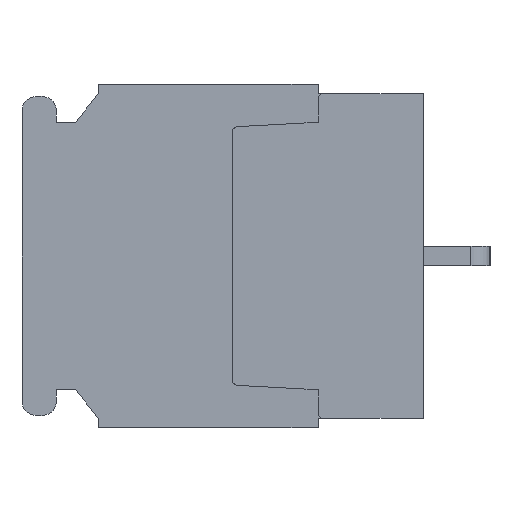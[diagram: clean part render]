
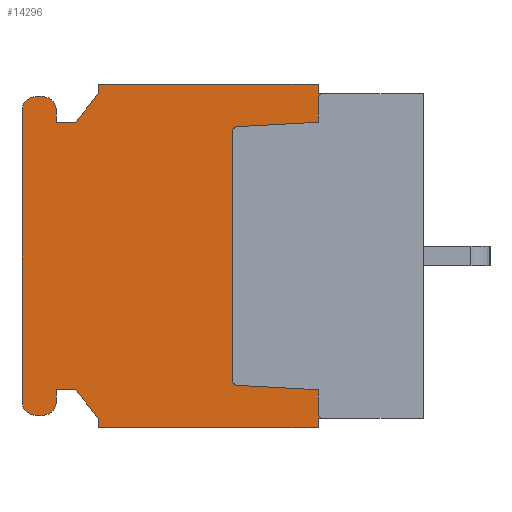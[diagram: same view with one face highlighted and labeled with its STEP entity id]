
A CAD part, left-side view. The second image highlights one B-rep face of the part: STEP entity #14296.
In plain terms, the highlighted planar face has unit normal (-1, 0, 0).
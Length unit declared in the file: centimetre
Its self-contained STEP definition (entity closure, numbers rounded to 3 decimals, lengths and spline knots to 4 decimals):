
#1227=VECTOR('',#16149,1.);
#1263=VECTOR('',#16187,1.);
#1736=VECTOR('',#17406,1.);
#1738=VECTOR('',#17409,1.);
#1740=VECTOR('',#17412,1.);
#1741=VECTOR('',#17414,1.);
#1743=VECTOR('',#17417,1.);
#1745=VECTOR('',#17420,1.);
#1747=VECTOR('',#17423,1.);
#1749=VECTOR('',#17426,1.);
#1751=VECTOR('',#17429,1.);
#1754=VECTOR('',#17437,1.);
#1757=VECTOR('',#17445,1.);
#1760=VECTOR('',#17453,1.);
#1763=VECTOR('',#17461,1.);
#1765=VECTOR('',#17464,1.);
#1767=VECTOR('',#17467,1.);
#1776=VECTOR('',#17492,1.);
#1777=VECTOR('',#17493,1.);
#1778=VECTOR('',#17496,1.);
#1779=VECTOR('',#17499,1.);
#1780=VECTOR('',#17500,1.);
#2767=LINE('',#20259,#1227);
#2803=LINE('',#20330,#1263);
#3276=LINE('',#21884,#1736);
#3278=LINE('',#21888,#1738);
#3280=LINE('',#21892,#1740);
#3281=LINE('',#21894,#1741);
#3283=LINE('',#21898,#1743);
#3285=LINE('',#21902,#1745);
#3287=LINE('',#21906,#1747);
#3289=LINE('',#21910,#1749);
#3291=LINE('',#21914,#1751);
#3294=LINE('',#21922,#1754);
#3297=LINE('',#21930,#1757);
#3300=LINE('',#21938,#1760);
#3303=LINE('',#21946,#1763);
#3305=LINE('',#21950,#1765);
#3307=LINE('',#21954,#1767);
#3316=LINE('',#21975,#1776);
#3317=LINE('',#21977,#1777);
#3318=LINE('',#21981,#1778);
#3319=LINE('',#21985,#1779);
#3320=LINE('',#21987,#1780);
#4295=VERTEX_POINT('',#20258);
#4296=VERTEX_POINT('',#20260);
#4328=VERTEX_POINT('',#20329);
#4329=VERTEX_POINT('',#20331);
#4775=VERTEX_POINT('',#21883);
#4776=VERTEX_POINT('',#21885);
#4777=VERTEX_POINT('',#21889);
#4778=VERTEX_POINT('',#21895);
#4779=VERTEX_POINT('',#21899);
#4780=VERTEX_POINT('',#21903);
#4781=VERTEX_POINT('',#21907);
#4782=VERTEX_POINT('',#21911);
#4783=VERTEX_POINT('',#21915);
#4784=VERTEX_POINT('',#21919);
#4785=VERTEX_POINT('',#21923);
#4786=VERTEX_POINT('',#21927);
#4787=VERTEX_POINT('',#21931);
#4788=VERTEX_POINT('',#21935);
#4789=VERTEX_POINT('',#21939);
#4790=VERTEX_POINT('',#21943);
#4791=VERTEX_POINT('',#21947);
#4792=VERTEX_POINT('',#21951);
#4793=VERTEX_POINT('',#21974);
#4794=VERTEX_POINT('',#21976);
#4795=VERTEX_POINT('',#21978);
#4796=VERTEX_POINT('',#21980);
#4797=VERTEX_POINT('',#21982);
#4798=VERTEX_POINT('',#21984);
#4799=VERTEX_POINT('',#21986);
#4800=VERTEX_POINT('',#21988);
#5399=CIRCLE('',#24344,0.075);
#5400=CIRCLE('',#24347,0.075);
#5401=CIRCLE('',#24350,0.075);
#5402=CIRCLE('',#24353,0.075);
#5403=CIRCLE('',#24367,0.03);
#5404=CIRCLE('',#24368,0.03);
#5405=CIRCLE('',#24369,0.03);
#5406=CIRCLE('',#24370,0.03);
#6250=EDGE_CURVE('',#4296,#4295,#2767,.T.);
#6286=EDGE_CURVE('',#4329,#4328,#2803,.T.);
#6999=EDGE_CURVE('',#4776,#4775,#3276,.T.);
#7001=EDGE_CURVE('',#4777,#4776,#3278,.T.);
#7003=EDGE_CURVE('',#4295,#4777,#3280,.T.);
#7004=EDGE_CURVE('',#4778,#4329,#3281,.T.);
#7006=EDGE_CURVE('',#4779,#4778,#3283,.T.);
#7008=EDGE_CURVE('',#4780,#4779,#3285,.T.);
#7010=EDGE_CURVE('',#4781,#4780,#3287,.T.);
#7012=EDGE_CURVE('',#4782,#4781,#3289,.T.);
#7014=EDGE_CURVE('',#4783,#4782,#3291,.T.);
#7016=EDGE_CURVE('',#4783,#4784,#5399,.T.);
#7018=EDGE_CURVE('',#4785,#4784,#3294,.T.);
#7020=EDGE_CURVE('',#4785,#4786,#5400,.T.);
#7022=EDGE_CURVE('',#4787,#4786,#3297,.T.);
#7024=EDGE_CURVE('',#4787,#4788,#5401,.T.);
#7026=EDGE_CURVE('',#4789,#4788,#3300,.T.);
#7028=EDGE_CURVE('',#4789,#4790,#5402,.T.);
#7030=EDGE_CURVE('',#4791,#4790,#3303,.T.);
#7032=EDGE_CURVE('',#4792,#4791,#3305,.T.);
#7034=EDGE_CURVE('',#4775,#4792,#3307,.T.);
#7043=EDGE_CURVE('',#4328,#4793,#5403,.T.);
#7044=EDGE_CURVE('',#4793,#4794,#3316,.T.);
#7045=EDGE_CURVE('',#4794,#4795,#3317,.T.);
#7046=EDGE_CURVE('',#4795,#4796,#5404,.T.);
#7047=EDGE_CURVE('',#4796,#4797,#3318,.T.);
#7048=EDGE_CURVE('',#4797,#4798,#5405,.T.);
#7049=EDGE_CURVE('',#4798,#4799,#3319,.T.);
#7050=EDGE_CURVE('',#4799,#4800,#3320,.T.);
#7051=EDGE_CURVE('',#4800,#4296,#5406,.T.);
#10775=ORIENTED_EDGE('',*,*,#7043,.T.);
#10776=ORIENTED_EDGE('',*,*,#7044,.T.);
#10777=ORIENTED_EDGE('',*,*,#7045,.T.);
#10778=ORIENTED_EDGE('',*,*,#7046,.T.);
#10779=ORIENTED_EDGE('',*,*,#7047,.T.);
#10780=ORIENTED_EDGE('',*,*,#7048,.T.);
#10781=ORIENTED_EDGE('',*,*,#7049,.T.);
#10782=ORIENTED_EDGE('',*,*,#7050,.T.);
#10783=ORIENTED_EDGE('',*,*,#7051,.T.);
#10784=ORIENTED_EDGE('',*,*,#6250,.T.);
#10785=ORIENTED_EDGE('',*,*,#7003,.T.);
#10786=ORIENTED_EDGE('',*,*,#7001,.T.);
#10787=ORIENTED_EDGE('',*,*,#6999,.T.);
#10788=ORIENTED_EDGE('',*,*,#7034,.T.);
#10789=ORIENTED_EDGE('',*,*,#7032,.T.);
#10790=ORIENTED_EDGE('',*,*,#7030,.T.);
#10791=ORIENTED_EDGE('',*,*,#7028,.F.);
#10792=ORIENTED_EDGE('',*,*,#7026,.T.);
#10793=ORIENTED_EDGE('',*,*,#7024,.F.);
#10794=ORIENTED_EDGE('',*,*,#7022,.T.);
#10795=ORIENTED_EDGE('',*,*,#7020,.F.);
#10796=ORIENTED_EDGE('',*,*,#7018,.T.);
#10797=ORIENTED_EDGE('',*,*,#7016,.F.);
#10798=ORIENTED_EDGE('',*,*,#7014,.T.);
#10799=ORIENTED_EDGE('',*,*,#7012,.T.);
#10800=ORIENTED_EDGE('',*,*,#7010,.T.);
#10801=ORIENTED_EDGE('',*,*,#7008,.T.);
#10802=ORIENTED_EDGE('',*,*,#7006,.T.);
#10803=ORIENTED_EDGE('',*,*,#7004,.T.);
#10804=ORIENTED_EDGE('',*,*,#6286,.T.);
#12536=EDGE_LOOP('',(#10775,#10776,#10777,#10778,#10779,#10780,#10781,#10782,
#10783,#10784,#10785,#10786,#10787,#10788,#10789,#10790,#10791,#10792,#10793,
#10794,#10795,#10796,#10797,#10798,#10799,#10800,#10801,#10802,#10803,#10804));
#13446=FACE_BOUND('',#12536,.T.);
#14296=ADVANCED_FACE('',(#13446),#14935,.F.);
#14935=PLANE('',#24366);
#16149=DIRECTION('',(0.,1.,0.));
#16187=DIRECTION('',(0.,-1.,0.));
#17406=DIRECTION('',(0.,0.,-1.));
#17409=DIRECTION('',(0.,1.,0.));
#17412=DIRECTION('',(0.,0.,1.));
#17414=DIRECTION('',(0.,0.,1.));
#17417=DIRECTION('',(0.,-1.,0.));
#17420=DIRECTION('',(0.,0.,-1.));
#17423=DIRECTION('',(0.,-0.625,-0.781));
#17426=DIRECTION('',(0.,-1.,0.));
#17429=DIRECTION('',(0.,0.,1.));
#17433=DIRECTION('',(1.,0.,0.));
#17434=DIRECTION('',(0.,0.,-0.075));
#17437=DIRECTION('',(0.,-1.,0.));
#17441=DIRECTION('',(1.,0.,0.));
#17442=DIRECTION('',(0.,0.,-0.075));
#17445=DIRECTION('',(0.,0.,-1.));
#17449=DIRECTION('',(1.,0.,0.));
#17450=DIRECTION('',(0.,0.,-0.075));
#17453=DIRECTION('',(0.,1.,0.));
#17457=DIRECTION('',(1.,0.,0.));
#17458=DIRECTION('',(0.,0.,-0.075));
#17461=DIRECTION('',(0.,0.,1.));
#17464=DIRECTION('',(0.,1.,0.));
#17467=DIRECTION('',(0.,0.625,-0.781));
#17489=DIRECTION('',(1.,0.,0.));
#17490=DIRECTION('',(1.,0.,0.));
#17491=DIRECTION('',(0.,0.,-0.03));
#17492=DIRECTION('',(0.,0.,1.));
#17493=DIRECTION('',(0.,0.999,0.054));
#17494=DIRECTION('',(1.,0.,0.));
#17495=DIRECTION('',(0.,0.,-0.03));
#17496=DIRECTION('',(0.,0.,1.));
#17497=DIRECTION('',(1.,0.,0.));
#17498=DIRECTION('',(0.,0.,-0.03));
#17499=DIRECTION('',(0.,-0.999,0.054));
#17500=DIRECTION('',(0.,0.,1.));
#17501=DIRECTION('',(1.,0.,0.));
#17502=DIRECTION('',(0.,0.,-0.03));
#20258=CARTESIAN_POINT('',(-1.3,0.55,0.85));
#20259=CARTESIAN_POINT('',(-1.3,0.,0.85));
#20260=CARTESIAN_POINT('',(-1.3,0.52,0.85));
#20329=CARTESIAN_POINT('',(-1.3,0.52,-0.85));
#20330=CARTESIAN_POINT('',(-1.3,0.55,-0.85));
#20331=CARTESIAN_POINT('',(-1.3,0.55,-0.85));
#21883=CARTESIAN_POINT('',(-1.3,1.7,0.85));
#21884=CARTESIAN_POINT('',(-1.3,1.7,0.9));
#21885=CARTESIAN_POINT('',(-1.3,1.7,0.9));
#21888=CARTESIAN_POINT('',(-1.3,0.55,0.9));
#21889=CARTESIAN_POINT('',(-1.3,0.55,0.9));
#21892=CARTESIAN_POINT('',(-1.3,0.55,0.85));
#21894=CARTESIAN_POINT('',(-1.3,0.55,-0.9));
#21895=CARTESIAN_POINT('',(-1.3,0.55,-0.9));
#21898=CARTESIAN_POINT('',(-1.3,1.7,-0.9));
#21899=CARTESIAN_POINT('',(-1.3,1.7,-0.9));
#21902=CARTESIAN_POINT('',(-1.3,1.7,-0.85));
#21903=CARTESIAN_POINT('',(-1.3,1.7,-0.85));
#21906=CARTESIAN_POINT('',(-1.3,1.82,-0.7));
#21907=CARTESIAN_POINT('',(-1.3,1.82,-0.7));
#21910=CARTESIAN_POINT('',(-1.3,1.92,-0.7));
#21911=CARTESIAN_POINT('',(-1.3,1.92,-0.7));
#21914=CARTESIAN_POINT('',(-1.3,1.92,-0.76));
#21915=CARTESIAN_POINT('',(-1.3,1.92,-0.76));
#21918=CARTESIAN_POINT('',(-1.3,1.995,-0.76));
#21919=CARTESIAN_POINT('',(-1.3,1.995,-0.835));
#21922=CARTESIAN_POINT('',(-1.3,2.025,-0.835));
#21923=CARTESIAN_POINT('',(-1.3,2.025,-0.835));
#21926=CARTESIAN_POINT('',(-1.3,2.025,-0.76));
#21927=CARTESIAN_POINT('',(-1.3,2.1,-0.76));
#21930=CARTESIAN_POINT('',(-1.3,2.1,0.76));
#21931=CARTESIAN_POINT('',(-1.3,2.1,0.76));
#21934=CARTESIAN_POINT('',(-1.3,2.025,0.76));
#21935=CARTESIAN_POINT('',(-1.3,2.025,0.835));
#21938=CARTESIAN_POINT('',(-1.3,1.995,0.835));
#21939=CARTESIAN_POINT('',(-1.3,1.995,0.835));
#21942=CARTESIAN_POINT('',(-1.3,1.995,0.76));
#21943=CARTESIAN_POINT('',(-1.3,1.92,0.76));
#21946=CARTESIAN_POINT('',(-1.3,1.92,0.7));
#21947=CARTESIAN_POINT('',(-1.3,1.92,0.7));
#21950=CARTESIAN_POINT('',(-1.3,1.82,0.7));
#21951=CARTESIAN_POINT('',(-1.3,1.82,0.7));
#21954=CARTESIAN_POINT('',(-1.3,1.7,0.85));
#21972=CARTESIAN_POINT('',(-1.3,1.0745,0.));
#21973=CARTESIAN_POINT('',(-1.3,0.52,-0.82));
#21974=CARTESIAN_POINT('',(-1.3,0.55,-0.82));
#21975=CARTESIAN_POINT('',(-1.3,0.55,-0.38));
#21976=CARTESIAN_POINT('',(-1.3,0.55,-0.7));
#21977=CARTESIAN_POINT('',(-1.3,0.9358,-0.6792));
#21978=CARTESIAN_POINT('',(-1.3,0.9718,-0.6773));
#21979=CARTESIAN_POINT('',(-1.3,0.97,-0.6473));
#21980=CARTESIAN_POINT('',(-1.3,1.,-0.6473));
#21981=CARTESIAN_POINT('',(-1.3,1.,0.));
#21982=CARTESIAN_POINT('',(-1.3,1.,0.6473));
#21983=CARTESIAN_POINT('',(-1.3,0.97,0.6473));
#21984=CARTESIAN_POINT('',(-1.3,0.9718,0.6773));
#21985=CARTESIAN_POINT('',(-1.3,0.9358,0.6792));
#21986=CARTESIAN_POINT('',(-1.3,0.55,0.7));
#21987=CARTESIAN_POINT('',(-1.3,0.55,0.38));
#21988=CARTESIAN_POINT('',(-1.3,0.55,0.82));
#21989=CARTESIAN_POINT('',(-1.3,0.52,0.82));
#24344=AXIS2_PLACEMENT_3D('',#21918,#17433,#17434);
#24347=AXIS2_PLACEMENT_3D('',#21926,#17441,#17442);
#24350=AXIS2_PLACEMENT_3D('',#21934,#17449,#17450);
#24353=AXIS2_PLACEMENT_3D('',#21942,#17457,#17458);
#24366=AXIS2_PLACEMENT_3D('',#21972,#17489,$);
#24367=AXIS2_PLACEMENT_3D('',#21973,#17490,#17491);
#24368=AXIS2_PLACEMENT_3D('',#21979,#17494,#17495);
#24369=AXIS2_PLACEMENT_3D('',#21983,#17497,#17498);
#24370=AXIS2_PLACEMENT_3D('',#21989,#17501,#17502);
